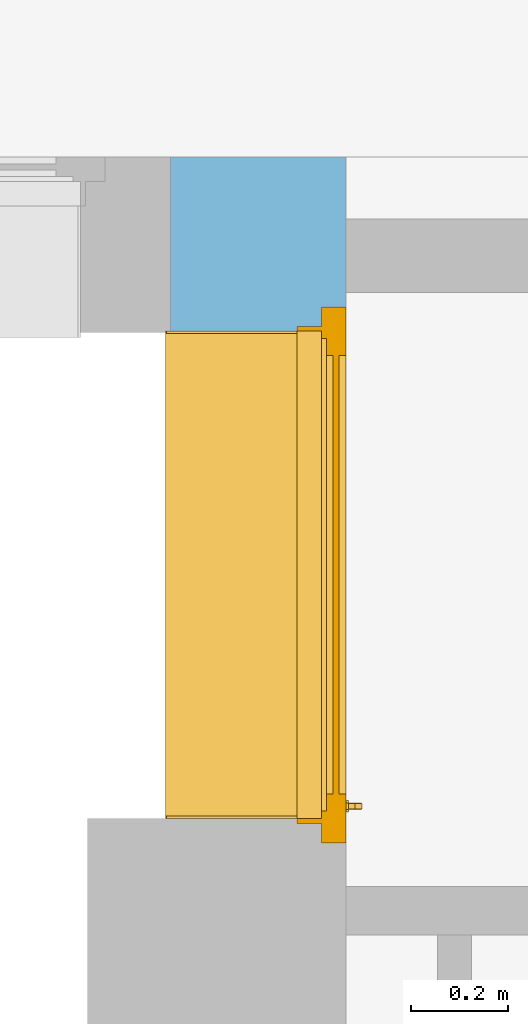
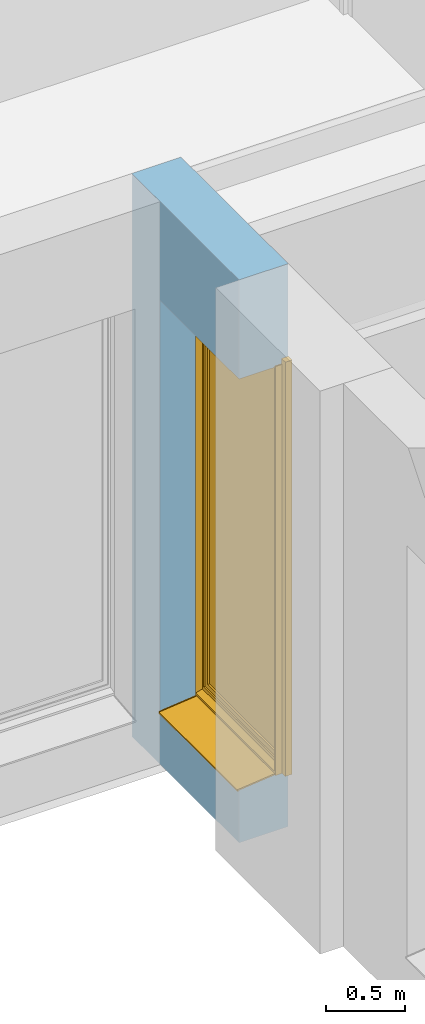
# One storey, part 22 of 32: 1 window, 1 opening, plus 1 element that does not belong to this part.
"""IFC2X3 building model written with IfcOpenShell, lengths in metres."""

from ifc_helpers import new_model, entity, si_unit, converted_unit, derived_unit, direction, frame, frame_2d, origin, place, context, subcontext, project, spatial, polyline, circle_curve, parameter, trimmed, segment, composite_curve, rectangle, outline, extrude, faceted_brep, source, transform, mapped, material, material_list, layer, layer_set, layer_usage, type_object, type_shapes, element, fill, save


model = new_model("IFC2X3")

# Units and contexts
model_context = context("Model", 3, precision=1e-05, world=origin(), true_north=direction((6.12303176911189e-17, 1.0)))
plan_context = context("Plan", 3, precision=1e-05, world=origin(), true_north=direction((6.12303176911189e-17, 1.0)))
body_context = subcontext(model_context, "Body", "Model", "MODEL_VIEW")
ifc_project = project(units=[si_unit("LENGTHUNIT", "METRE"), si_unit("AREAUNIT", "SQUARE_METRE"), si_unit("VOLUMEUNIT", "CUBIC_METRE"), converted_unit("PLANEANGLEUNIT", "DEGREE", entity("IfcRatioMeasure", 0.0174532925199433), si_unit("PLANEANGLEUNIT", "RADIAN"), dimensions=[0, 0, 0, 0, 0, 0, 0]), si_unit("MASSUNIT", "GRAM", prefix="KILO"), derived_unit("MASSDENSITYUNIT", [(si_unit("MASSUNIT", "GRAM", prefix="KILO"), 1), (si_unit("LENGTHUNIT", "METRE"), -3)]), derived_unit("MOMENTOFINERTIAUNIT", [(si_unit("LENGTHUNIT", "METRE"), 4)]), si_unit("TIMEUNIT", "SECOND"), si_unit("FREQUENCYUNIT", "HERTZ"), si_unit("THERMODYNAMICTEMPERATUREUNIT", "DEGREE_CELSIUS"), derived_unit("THERMALTRANSMITTANCEUNIT", [(si_unit("MASSUNIT", "GRAM", prefix="KILO"), 1), (si_unit("THERMODYNAMICTEMPERATUREUNIT", "KELVIN"), -1), (si_unit("TIMEUNIT", "SECOND"), -3)]), derived_unit("VOLUMETRICFLOWRATEUNIT", [(si_unit("LENGTHUNIT", "METRE"), 3), (si_unit("TIMEUNIT", "SECOND"), -1)]), si_unit("ELECTRICCURRENTUNIT", "AMPERE"), si_unit("ELECTRICVOLTAGEUNIT", "VOLT"), si_unit("POWERUNIT", "WATT"), si_unit("FORCEUNIT", "NEWTON", prefix="KILO"), si_unit("ILLUMINANCEUNIT", "LUX"), si_unit("LUMINOUSFLUXUNIT", "LUMEN"), si_unit("LUMINOUSINTENSITYUNIT", "CANDELA"), derived_unit("USERDEFINED", [(si_unit("MASSUNIT", "GRAM", prefix="KILO"), -1), (si_unit("LENGTHUNIT", "METRE"), -2), (si_unit("TIMEUNIT", "SECOND"), 3), (si_unit("LUMINOUSFLUXUNIT", "LUMEN"), 1)]), derived_unit("LINEARVELOCITYUNIT", [(si_unit("LENGTHUNIT", "METRE"), 1), (si_unit("TIMEUNIT", "SECOND"), -1)]), si_unit("PRESSUREUNIT", "PASCAL"), derived_unit("USERDEFINED", [(si_unit("LENGTHUNIT", "METRE"), -2), (si_unit("MASSUNIT", "GRAM", prefix="KILO"), 1), (si_unit("TIMEUNIT", "SECOND"), -2)]), derived_unit("LINEARFORCEUNIT", [(si_unit("MASSUNIT", "GRAM", prefix="KILO"), 1), (si_unit("LENGTHUNIT", "METRE"), 1), (si_unit("TIMEUNIT", "SECOND"), -2), (si_unit("LENGTHUNIT", "METRE"), -1)]), derived_unit("PLANARFORCEUNIT", [(si_unit("MASSUNIT", "GRAM", prefix="KILO"), 1), (si_unit("LENGTHUNIT", "METRE"), 1), (si_unit("TIMEUNIT", "SECOND"), -2), (si_unit("LENGTHUNIT", "METRE"), -2)])], contexts=[model_context, plan_context])

# Site, building, storey
site_placement = place(None, origin())
site = spatial("IfcSite", under=ifc_project, at=site_placement, Name="Default", CompositionType="ELEMENT")
building_placement = place(site_placement, origin())
building = spatial("IfcBuilding", under=site, at=building_placement, CompositionType="ELEMENT")
storey_placement = place(building_placement, origin())
storey = spatial("IfcBuildingStorey", under=building, at=storey_placement, Name="0 Mairie RDC 0.00", CompositionType="ELEMENT", Elevation=-1.94916083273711e-14)

# Wall, opening, window
ifc_material_1 = material(Name="Maçonnerie - Enduit")
ifc_layer_1 = layer(ifc_material_1, 0.02)
ifc_material_2 = material(Name="Béton, coulé sur place")
ifc_layer_2 = layer(ifc_material_2, 0.2)
ifc_material_3 = material(Name="Vide")
ifc_layer_3 = layer(ifc_material_3, 0.01)
ifc_material_4 = material(Name="Maçonnerie - Isolant")
ifc_layer_4 = layer(ifc_material_4, 0.12)
ifc_material_5 = material(Name="Plâtre")
ifc_layer_5 = layer(ifc_material_5, 0.01)
ifc_layer_set = layer_set([ifc_layer_1, ifc_layer_2, ifc_layer_3, ifc_layer_4, ifc_layer_5], Name="Mur de base:A Enduit 2 + Béton 20 + vide 1 +  Doublage 13")
ifc_layer_usage = layer_usage(ifc_layer_set, "AXIS2", "POSITIVE", -0.18)
wall_type = type_object("IfcWallType", Name="Murs : Mur de base : A Enduit 2 + Béton 20 + vide 1 +  Doublage 13", PredefinedType="STANDARD", material=ifc_layer_set)
wall_placement = place(storey_placement, frame((-23.9582803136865, -7.95302112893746, -0.400000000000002), z_axis=(0.0, 0.0, 1.0), x_axis=(0.0, -1.0, 0.0)))
wall = element("IfcWallStandardCase", 1, at=wall_placement, inside=storey, type_object=wall_type, material=ifc_layer_usage, Name="Murs : Mur de base : A Enduit 2 + Béton 20 + vide 1 +  Doublage 13", ObjectType="Mur de base:A Enduit 2 + Béton 20 + vide 1 +  Doublage 13", context=body_context, shape_type="SweptSolid", body=[
    extrude(rectangle(XDim=1.35699999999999, YDim=0.359999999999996, at=frame_2d((0.678499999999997, -1.59594559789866e-15), x_axis=(-1.0, 0.0))), origin(), (0.0, 0.0, 1.0), 4.35000000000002),
])
opening_placement = place(wall_placement, frame((1.407, -0.500000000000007, 0.400000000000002), z_axis=(0.0, 0.0, 1.0), x_axis=(0.0, 1.0, 0.0)))
opening = element("IfcOpeningElement", 2, at=opening_placement, cuts=wall, Name="Murs : Mur de base : A Enduit 2 + Béton 20 + vide 1 +  Doublage 13", ObjectType="Opening", context=body_context, shape_type="Brep", body=[
    faceted_brep([(0.599999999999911, 0.0500000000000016, 0.0349999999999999), (0.580000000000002, 0.0500000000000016, 0.0350000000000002), (0.580000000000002, 0.0500000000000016, 3.185), (0.0, 0.0500000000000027, 3.185), (0.0, 0.0500000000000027, 0.0), (0.266997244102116, 0.0500000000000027, 0.0), (1.0, 1.05, 0.035), (0.680000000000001, 1.05, 0.035), (0.680000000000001, 1.05, 3.185), (1.0, 1.05, 3.185), (1.0, 0.0500000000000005, 0.035), (0.680000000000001, 0.0500000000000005, 0.035), (0.680000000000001, 0.0, 0.035), (0.630000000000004, 0.0, 0.035), (0.630000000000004, 0.0400000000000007, 0.035), (0.580000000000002, 0.0400000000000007, 0.035), (0.599999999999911, 1.05, 0.0349999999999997), (0.580000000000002, 1.05, 0.035), (0.580000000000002, 1.06, 0.035), (0.630000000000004, 1.06, 0.035), (0.630000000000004, 1.1, 0.035), (0.680000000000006, 1.1, 0.035), (1.0, 0.0500000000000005, 3.185), (0.579999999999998, 1.05, 3.185), (0.0, 1.05, 3.185), (0.0, 1.05, 0.0), (0.266997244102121, 1.05, 0.0), (0.680000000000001, 0.0, 3.235), (0.630000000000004, 0.0, 3.235), (0.630000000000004, 1.1, 3.235), (0.630000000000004, 1.06, 3.195), (0.630000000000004, 0.0400000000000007, 3.195), (0.580000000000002, 0.0400000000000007, 3.195), (0.580000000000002, 1.06, 3.195), (0.680000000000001, 0.0500000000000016, 3.185), (0.680000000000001, 1.1, 3.235)], [[[0, 1, 2, 3, 4, 5]], [[6, 7, 8, 9]], [[10, 11, 12, 13, 14, 15, 1, 0, 16, 17, 18, 19, 20, 21, 7, 6]], [[10, 6, 9, 22]], [[3, 2, 23, 24]], [[3, 24, 25, 4]], [[4, 25, 26, 5]], [[5, 26, 16, 0]], [[12, 27, 28, 13]], [[13, 28, 29, 20, 19, 30, 31, 14]], [[14, 31, 32, 15]], [[15, 32, 33, 18, 17, 23, 2, 1]], [[11, 34, 8, 7, 21, 35, 27, 12]], [[27, 35, 29, 28]], [[30, 33, 32, 31]], [[29, 35, 21, 20]], [[19, 18, 33, 30]], [[9, 8, 34, 22]], [[24, 23, 17, 16, 26, 25]], [[22, 34, 11, 10]]]),
])
ifc_material_6 = material(Name="Fenêtre - Poignée")
ifc_material_7 = material(Name="Fenêtre - Cadre")
ifc_material_list_1 = material_list([ifc_material_6, ifc_material_7])
ifc_material_8 = material(Name="Fenêtre - Vitrage")
ifc_material_9 = material(Name="Fenêtre - Appui")
ifc_material_list_2 = material_list([ifc_material_8, ifc_material_6, ifc_material_9, ifc_material_7])
window_style = type_object("IfcWindowStyle", Name="Fenêtres : PF 1 Vantail - Droite : 1.00m x 3.15m", ConstructionType="NOTDEFINED", OperationType="SINGLE_PANEL", ParameterTakesPrecedence=False, Sizeable=False, material=ifc_material_list_2)
shared_shape = source(origin(), body_context, "Body", "SolidModel", [
    extrude(outline(polyline([(-0.0233345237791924, -0.0332340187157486), (-0.0162634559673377, -0.0332340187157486), (0.0332340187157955, 0.016263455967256), (0.0332340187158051, 0.0233345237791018), (0.0233345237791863, 0.0332340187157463), (0.0162634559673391, 0.0332340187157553), (-0.0332340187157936, -0.0162634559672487), (-0.033234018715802, -0.0233345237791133), (-0.0233345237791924, -0.0332340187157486)])), frame((0.0750000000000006, 0.314000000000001, 1.1), z_axis=(0.0, 1.0, 0.0), x_axis=(0.707106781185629, 0.0, -0.707106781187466)), (0.0, 0.0, 1.0), 0.00599999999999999),
    extrude(outline(polyline([(-0.145647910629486, 0.00157280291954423), (-0.14680589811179, -0.00944471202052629), (-0.141778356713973, -0.0094447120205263), (-0.141169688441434, -0.003653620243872), (0.145429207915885, -0.00365362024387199), (0.146997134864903, 0.0112642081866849), (0.142024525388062, 0.0117868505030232), (0.140950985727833, 0.00157280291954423), (-0.145647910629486, 0.00157280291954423)])), frame((0.0499999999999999, 0.545014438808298, 0.0234321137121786), z_axis=(-1.0, 0.0, 0.0), x_axis=(0.0, -0.994521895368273, 0.104528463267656)), (0.0, 0.0, -1.0), 1.0),
    extrude(outline(composite_curve([segment(polyline([(-0.0143545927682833, -0.11472792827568), (-0.0129286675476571, -0.11472792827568)]), True, "CONTINUOUS"), segment(trimmed(circle_curve(frame_2d((-0.0129286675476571, -0.11072792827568), x_axis=(0.0, 1.0)), 0.004), [parameter(180.0)], [parameter(263.999999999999)], True, "PARAMETER"), True, "CONTINUOUS"), segment(polyline([(-0.00895057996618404, -0.111146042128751), (0.020630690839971, 0.170300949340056)]), True, "CONTINUOUS"), segment(polyline([(0.020630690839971, 0.170300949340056), (0.0156031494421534, 0.170300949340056)]), True, "CONTINUOUS"), segment(polyline([(0.0156031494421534, 0.170300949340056), (-0.0143545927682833, -0.11472792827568)]), True, "CONTINUOUS")], self_intersect=False)), frame((0.0500000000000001, 0.575300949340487, 0.0241265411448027), z_axis=(1.0, 0.0, 0.0), x_axis=(0.0, 0.0, 1.0)), (0.0, 0.0, 1.0), 0.00500000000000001),
    extrude(outline(composite_curve([segment(polyline([(-0.0143545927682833, -0.11472792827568), (-0.0129286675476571, -0.11472792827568)]), True, "CONTINUOUS"), segment(trimmed(circle_curve(frame_2d((-0.0129286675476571, -0.11072792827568), x_axis=(0.0, 1.0)), 0.004), [parameter(180.0)], [parameter(264.0)], True, "PARAMETER"), True, "CONTINUOUS"), segment(polyline([(-0.00895057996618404, -0.111146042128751), (0.020630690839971, 0.170300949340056)]), True, "CONTINUOUS"), segment(polyline([(0.020630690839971, 0.170300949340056), (0.0156031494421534, 0.170300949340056)]), True, "CONTINUOUS"), segment(polyline([(0.0156031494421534, 0.170300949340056), (-0.0143545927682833, -0.11472792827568)]), True, "CONTINUOUS")], self_intersect=False)), frame((1.045, 0.575300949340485, 0.0241265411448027), z_axis=(1.0, 0.0, 0.0), x_axis=(0.0, 0.0, 1.0)), (0.0, 0.0, 1.0), 0.00500000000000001),
    extrude(rectangle(XDim=0.012, YDim=0.900000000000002, at=frame_2d((0.0, 2.77555756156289e-17), x_axis=(1.0, 0.0))), frame((0.549999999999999, 0.339999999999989, 0.134999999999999), z_axis=(0.0, 0.0, 1.0), x_axis=(0.0, -1.0, 0.0)), (0.0, 0.0, 1.0), 3.0),
    extrude(outline(polyline([(-0.5, -1.55), (0.5, -1.55), (0.5, 1.55), (-0.5, 1.55), (-0.5, -1.55)]), holes=[polyline([(0.450000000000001, -1.5), (-0.450000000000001, -1.5), (-0.450000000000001, 1.5), (0.45, 1.5), (0.450000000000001, -1.5)])]), frame((0.549999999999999, 0.31999999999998, 1.635), z_axis=(0.0, 1.0, 0.0), x_axis=(-1.0, 0.0, 0.0)), (0.0, 0.0, 1.0), 0.0399999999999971),
    extrude(outline(polyline([(-1.5775, -0.51), (1.5825, -0.51), (1.5825, 0.51), (-1.5775, 0.51), (-1.5775, 0.5), (1.5725, 0.5), (1.5725, -0.5), (-1.5775, -0.5), (-1.5775, -0.51)])), frame((0.549999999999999, 0.37, 1.6125), z_axis=(0.0, 1.0, 0.0), x_axis=(0.0, 0.0, 1.0)), (0.0, 0.0, 1.0), 0.0500000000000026),
    faceted_brep([(0.0806460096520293, 0.313999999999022, 1.12203392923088), (0.0820339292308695, 0.313999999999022, 1.12064600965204), (0.0820339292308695, 0.313999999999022, 1.10933230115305), (0.0806676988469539, 0.313999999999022, 1.10796607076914), (0.0693323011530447, 0.313999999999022, 1.10796607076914), (0.0679660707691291, 0.313999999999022, 1.10933230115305), (0.0679660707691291, 0.313999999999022, 1.12064600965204), (0.0693539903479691, 0.313999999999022, 1.12203392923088), (0.0806460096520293, 0.301086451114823, 1.12203392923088), (0.0820339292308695, 0.301661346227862, 1.12064600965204), (0.0820339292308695, 0.288353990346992, 1.10733865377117), (0.0820339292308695, 0.288353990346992, 1.02000000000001), (0.0820339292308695, 0.299667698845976, 1.02000000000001), (0.0820339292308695, 0.299667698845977, 1.10265236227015), (0.0820339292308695, 0.306347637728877, 1.10933230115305), (0.0806676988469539, 0.306913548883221, 1.10796607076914), (0.0693323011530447, 0.306913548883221, 1.10796607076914), (0.0679660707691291, 0.306347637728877, 1.10933230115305), (0.0679660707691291, 0.299667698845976, 1.10265236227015), (0.0679660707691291, 0.299667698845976, 1.02000000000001), (0.067966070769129, 0.288353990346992, 1.02000000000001), (0.0679660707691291, 0.288353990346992, 1.10733865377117), (0.0679660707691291, 0.301661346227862, 1.12064600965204), (0.069353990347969, 0.301086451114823, 1.12203392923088), (0.0806460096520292, 0.286966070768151, 1.1079135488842), (0.0806676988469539, 0.301033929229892, 1.10208645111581), (0.0693323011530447, 0.301033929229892, 1.10208645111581), (0.069353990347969, 0.286966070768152, 1.1079135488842), (0.0806460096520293, 0.286966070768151, 1.02000000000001), (0.0693539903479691, 0.286966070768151, 1.02000000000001), (0.0693323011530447, 0.301033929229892, 1.02000000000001), (0.0806676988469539, 0.301033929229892, 1.02000000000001)], [[[0, 1, 2, 3, 4, 5, 6, 7]], [[1, 0, 8, 9]], [[2, 1, 9, 10, 11, 12, 13, 14]], [[3, 2, 14, 15]], [[4, 3, 15, 16]], [[5, 4, 16, 17]], [[6, 5, 17, 18, 19, 20, 21, 22]], [[7, 6, 22, 23]], [[0, 7, 23, 8]], [[9, 8, 24, 10]], [[15, 14, 13, 25]], [[16, 15, 25, 26]], [[17, 16, 26, 18]], [[23, 22, 21, 27]], [[8, 23, 27, 24]], [[28, 29, 20, 19, 30, 31, 12, 11]], [[10, 24, 28, 11]], [[25, 13, 12, 31]], [[26, 25, 31, 30]], [[18, 26, 30, 19]], [[27, 21, 20, 29]], [[24, 27, 29, 28]]]),
    faceted_brep([(0.0, 0.320000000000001, 0.0349999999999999), (0.0, 0.37, 0.0349999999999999), (0.0499999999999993, 0.37, 0.0349999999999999), (0.0499999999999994, 0.400000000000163, 0.0349999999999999), (1.05, 0.400000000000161, 0.035), (1.05, 0.37, 0.0349999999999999), (1.1, 0.37, 0.0349999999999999), (1.1, 0.320000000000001, 0.0349999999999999), (0.0, 0.320000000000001, 3.235), (0.0, 0.37, 3.235), (1.1, 0.37, 3.235), (1.05, 0.37, 0.0743761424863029), (0.0499999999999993, 0.37, 0.0743761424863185), (0.0649999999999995, 0.37, 3.17), (0.0649999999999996, 0.37, 0.0999999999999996), (1.035, 0.37, 0.0999999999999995), (1.035, 0.37, 3.17), (0.0499999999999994, 0.420000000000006, 0.0609786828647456), (0.0499999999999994, 0.420000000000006, 0.0450000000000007), (0.0499999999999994, 0.41000000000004, 0.0450000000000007), (0.0499999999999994, 0.41000000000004, 0.0500000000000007), (0.0499999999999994, 0.400000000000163, 0.0500000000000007), (1.05, 0.400000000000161, 0.0500000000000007), (1.05, 0.410000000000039, 0.0500000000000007), (1.05, 0.410000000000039, 0.0450000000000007), (1.05, 0.420000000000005, 0.0450000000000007), (1.05, 0.420000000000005, 0.0609786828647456), (1.1, 0.320000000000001, 3.235), (1.05, 0.320000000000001, 3.185), (1.05, 0.32, 0.085), (0.0499999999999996, 0.320000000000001, 0.0850000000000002), (0.0499999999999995, 0.320000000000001, 3.185), (0.0649999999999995, 0.36, 3.17), (0.0649999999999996, 0.36, 0.0999999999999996), (1.035, 0.36, 0.0999999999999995), (1.035, 0.36, 3.17), (1.05, 0.36, 3.185), (0.0499999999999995, 0.36, 3.185), (0.0499999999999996, 0.36, 0.085), (1.05, 0.36, 0.0850000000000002)], [[[0, 1, 2, 3, 4, 5, 6, 7]], [[1, 0, 8, 9]], [[1, 9, 10, 6, 5, 11, 12, 2], [13, 14, 15, 16]], [[12, 17, 18, 19, 20, 21, 3, 2]], [[3, 21, 22, 4]], [[4, 22, 23, 24, 25, 26, 11, 5]], [[6, 10, 27, 7]], [[0, 7, 27, 8], [28, 29, 30, 31]], [[13, 32, 33, 14]], [[33, 34, 15, 14]], [[35, 16, 15, 34]], [[17, 12, 11, 26]], [[36, 37, 38, 39], [32, 35, 34, 33]], [[38, 37, 31, 30]], [[30, 29, 39, 38]], [[28, 36, 39, 29]], [[18, 17, 26, 25]], [[19, 18, 25, 24]], [[20, 19, 24, 23]], [[21, 20, 23, 22]], [[13, 16, 35, 32]], [[37, 36, 28, 31]], [[10, 9, 8, 27]]]),
])
type_shapes(window_style, [shared_shape])
window_placement = place(opening_placement, frame((1.0, 0.0, 0.0), z_axis=(0.0, 0.0, 1.0), x_axis=(0.0, 1.0, 0.0)))
window = element("IfcWindow", 3, at=window_placement, inside=storey, type_object=window_style, material=ifc_material_list_1, Name="Fenêtres : PF 1 Vantail - Droite : 1.00m x 3.15m", ObjectType="PF 1 Vantail - Droite:1.00m x 3.15m", OverallHeight=3.265, OverallWidth=1.1, context=body_context, shape_type="MappedRepresentation", body=[
    mapped(shared_shape, transform((0.0, 0.0, 0.0), scale=1.0)),
])
fill(opening, window)

save(model, "model.ifc")
